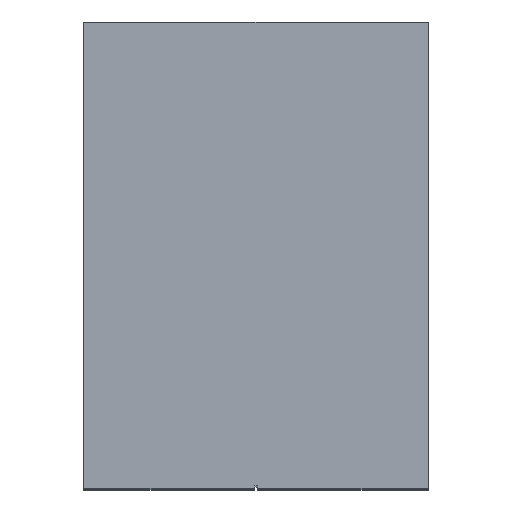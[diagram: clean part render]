
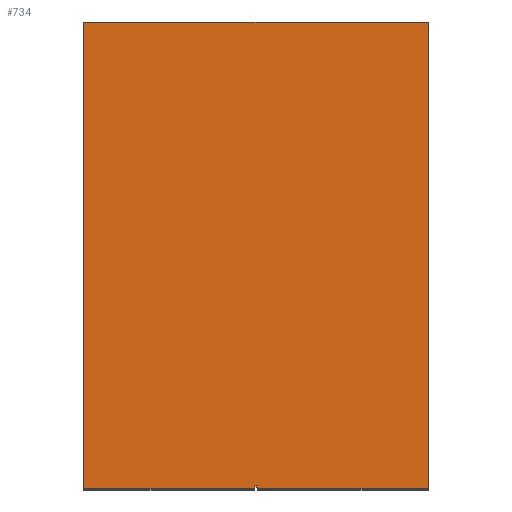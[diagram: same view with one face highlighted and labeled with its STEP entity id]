
A CAD part, top view. The second image highlights one B-rep face of the part: STEP entity #734.
In plain terms, the highlighted planar face has unit normal (0, 0, 1).
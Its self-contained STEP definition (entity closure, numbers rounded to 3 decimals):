
#52=FACE_OUTER_BOUND('',#83,.T.);
#83=EDGE_LOOP('',(#648,#649,#650,#651,#652,#653,#654,#655));
#218=VERTEX_POINT('',#2017);
#220=VERTEX_POINT('',#2020);
#227=VERTEX_POINT('',#2036);
#229=VERTEX_POINT('',#2040);
#242=VERTEX_POINT('',#2082);
#243=VERTEX_POINT('',#2086);
#248=VERTEX_POINT('',#2104);
#249=VERTEX_POINT('',#2106);
#386=EDGE_CURVE('',#220,#218,#1021,.T.);
#396=EDGE_CURVE('',#227,#229,#1031,.T.);
#408=EDGE_CURVE('',#218,#227,#1043,.T.);
#418=EDGE_CURVE('',#242,#220,#1053,.T.);
#420=EDGE_CURVE('',#229,#243,#1055,.T.);
#428=EDGE_CURVE('',#248,#243,#1063,.T.);
#429=EDGE_CURVE('',#249,#248,#1064,.T.);
#430=EDGE_CURVE('',#242,#249,#1065,.T.);
#648=ORIENTED_EDGE('',*,*,#428,.F.);
#649=ORIENTED_EDGE('',*,*,#429,.F.);
#650=ORIENTED_EDGE('',*,*,#430,.F.);
#651=ORIENTED_EDGE('',*,*,#418,.T.);
#652=ORIENTED_EDGE('',*,*,#386,.T.);
#653=ORIENTED_EDGE('',*,*,#408,.T.);
#654=ORIENTED_EDGE('',*,*,#396,.T.);
#655=ORIENTED_EDGE('',*,*,#420,.T.);
#703=PLANE('',#1319);
#734=ADVANCED_FACE('',(#52),#703,.T.);
#1021=LINE('',#2021,#1244);
#1031=LINE('',#2042,#1254);
#1043=LINE('',#2067,#1266);
#1053=LINE('',#2084,#1276);
#1055=LINE('',#2088,#1278);
#1063=LINE('',#2105,#1286);
#1064=LINE('',#2107,#1287);
#1065=LINE('',#2108,#1288);
#1244=VECTOR('',#1531,10.);
#1254=VECTOR('',#1545,10.);
#1266=VECTOR('',#1565,10.);
#1276=VECTOR('',#1581,595.);
#1278=VECTOR('',#1585,595.);
#1286=VECTOR('',#1601,1625.);
#1287=VECTOR('',#1602,1200.);
#1288=VECTOR('',#1603,1625.);
#1319=AXIS2_PLACEMENT_3D('',#2103,#1599,#1600);
#1531=DIRECTION('',(0.,1.,0.));
#1545=DIRECTION('',(0.,-1.,0.));
#1565=DIRECTION('',(1.,0.,0.));
#1581=DIRECTION('',(1.,0.,0.));
#1585=DIRECTION('',(1.,0.,0.));
#1599=DIRECTION('center_axis',(0.,0.,1.));
#1600=DIRECTION('ref_axis',(-1.,0.,0.));
#1601=DIRECTION('',(0.,-1.,0.));
#1602=DIRECTION('',(1.,0.,0.));
#1603=DIRECTION('',(0.,1.,0.));
#2017=CARTESIAN_POINT('',(595.,-1615.,2350.));
#2020=CARTESIAN_POINT('',(595.,-1625.,2350.));
#2021=CARTESIAN_POINT('',(595.,-1625.,2350.));
#2036=CARTESIAN_POINT('',(605.,-1615.,2350.));
#2040=CARTESIAN_POINT('',(605.,-1625.,2350.));
#2042=CARTESIAN_POINT('',(605.,-1615.,2350.));
#2067=CARTESIAN_POINT('',(595.,-1615.,2350.));
#2082=CARTESIAN_POINT('',(0.,-1625.,2350.));
#2084=CARTESIAN_POINT('',(0.,-1625.,2350.));
#2086=CARTESIAN_POINT('',(1200.,-1625.,2350.));
#2088=CARTESIAN_POINT('',(605.,-1625.,2350.));
#2103=CARTESIAN_POINT('Origin',(1200.,0.,2350.));
#2104=CARTESIAN_POINT('',(1200.,0.,2350.));
#2105=CARTESIAN_POINT('',(1200.,0.,2350.));
#2106=CARTESIAN_POINT('',(0.,0.,2350.));
#2107=CARTESIAN_POINT('',(0.,0.,2350.));
#2108=CARTESIAN_POINT('',(0.,-1625.,2350.));
